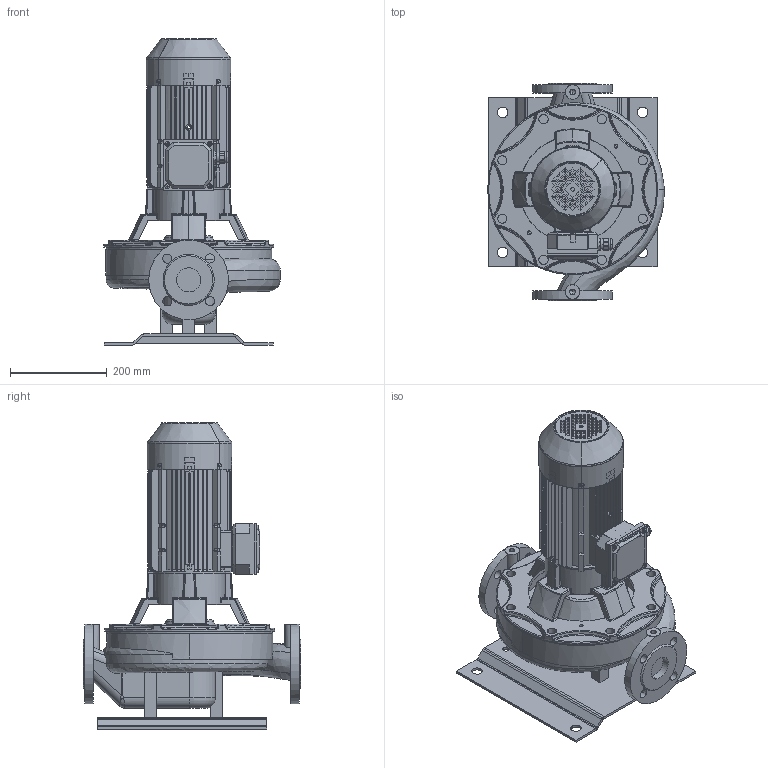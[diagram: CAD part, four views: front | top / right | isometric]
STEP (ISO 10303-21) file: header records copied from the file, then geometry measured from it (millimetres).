
FILE_DESCRIPTION(('STEP AP214'),'1');
FILE_NAME('export.stp','2018-05-29T06:45:20',(' '),(' '),'Spatial InterOp 3D',' ',' ');
FILE_SCHEMA(('AUTOMOTIVE_DESIGN { 1 0 10303 214 1 1 1 1 }'));
Length unit declared in the file: millimetre
Products named in the file (24): W_L50S4150_KP90; V_TLL50S80S; V_PPL50S; P100496; P100495; P100342; 160034; 160011; V_MKP902_F29; 160141; 160137; 160138; 160139; 160140; Koura_Ale_M5; Plug_Blind_M20; Sealing_Plug_M20; DIN_7985-M5X8; DIN_7985-M5X12; 480037; 480036___; 480039; 480038___; 160135
Assembly tree (27 placements, depth 4):
  W_L50S4150_KP90
    V_TLL50S80S
    V_PPL50S
    P100496
      P100495  x2
      P100342
    V_MKP902_F29
      160034
        160011
      160141
        160137
        160138
        160139
        160140
        Koura_Ale_M5
        Plug_Blind_M20
        Sealing_Plug_M20
        DIN_7985-M5X8
        DIN_7985-M5X12  x4
      480037
        480036___
      480039
        480038___
      160135
Bounding box: 366 x 450 x 633.99 mm (x, y, z)
Volume: 12025522.1 mm3; surface area: 2091290.2 mm2
Topology: 21 solids, 21 shells, 2498 faces, 6605 edges, 4168 vertices
Faces by surface type: plane 1033, cylinder 750, torus 266, bspline 244, cone 173, sphere 32
Entity records: 95127 total; most frequent: CARTESIAN_POINT 32843, ORIENTED_EDGE 12794, DIRECTION 11958, EDGE_CURVE 6397, AXIS2_PLACEMENT_3D 4525, VERTEX_POINT 4064, LINE 2908, VECTOR 2908
